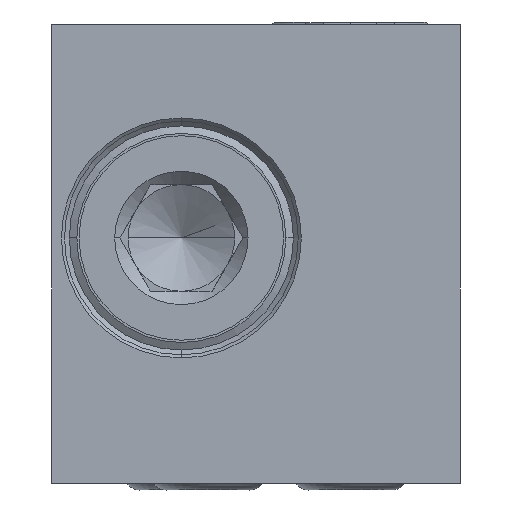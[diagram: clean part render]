
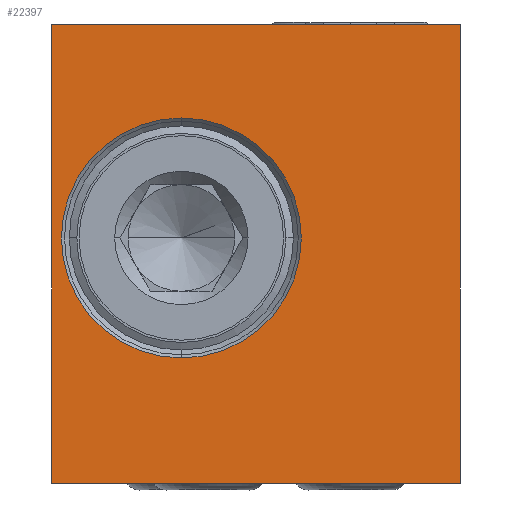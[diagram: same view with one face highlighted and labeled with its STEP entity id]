
A CAD part, left-side view. The second image highlights one B-rep face of the part: STEP entity #22397.
In plain terms, the highlighted planar face has unit normal (-1, 0, 0).
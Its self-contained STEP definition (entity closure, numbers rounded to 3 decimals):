
#4133=DIRECTION('',(0.,0.,1.));
#4134=VECTOR('',#4133,25.8);
#4135=CARTESIAN_POINT('',(-38.,11.5,-12.9));
#4136=LINE('',#4135,#4134);
#4137=DIRECTION('',(0.,-1.,0.));
#4138=VECTOR('',#4137,23.);
#4139=CARTESIAN_POINT('',(-38.,11.5,12.9));
#4140=LINE('',#4139,#4138);
#4141=DIRECTION('',(0.,0.,-1.));
#4142=VECTOR('',#4141,25.8);
#4143=CARTESIAN_POINT('',(-38.,-11.5,12.9));
#4144=LINE('',#4143,#4142);
#4145=DIRECTION('',(0.,1.,0.));
#4146=VECTOR('',#4145,23.);
#4147=CARTESIAN_POINT('',(-38.,-11.5,-12.9));
#4148=LINE('',#4147,#4146);
#4149=CARTESIAN_POINT('',(-38.,4.2,0.9));
#4150=DIRECTION('',(-1.,0.,0.));
#4151=DIRECTION('',(0.,0.,-1.));
#4152=AXIS2_PLACEMENT_3D('',#4149,#4150,#4151);
#4154=CARTESIAN_POINT('',(-38.,4.2,0.9));
#4155=DIRECTION('',(-1.,0.,0.));
#4156=DIRECTION('',(0.,0.,1.));
#4157=AXIS2_PLACEMENT_3D('',#4154,#4155,#4156);
#15307=CARTESIAN_POINT('',(-38.,11.5,12.9));
#15308=VERTEX_POINT('',#15307);
#15309=CARTESIAN_POINT('',(-38.,11.5,-12.9));
#15310=VERTEX_POINT('',#15309);
#15311=CARTESIAN_POINT('',(-38.,-11.5,12.9));
#15312=VERTEX_POINT('',#15311);
#15333=CARTESIAN_POINT('',(-38.,-11.5,-12.9));
#15334=VERTEX_POINT('',#15333);
#15379=CARTESIAN_POINT('',(-38.,4.2,-5.85));
#15380=CARTESIAN_POINT('',(-38.,4.2,7.65));
#15381=VERTEX_POINT('',#15379);
#15382=VERTEX_POINT('',#15380);
#22378=CARTESIAN_POINT('',(-38.,0.,0.));
#22379=DIRECTION('',(-1.,0.,0.));
#22380=DIRECTION('',(0.,-1.,0.));
#22381=AXIS2_PLACEMENT_3D('',#22378,#22379,#22380);
#22382=PLANE('',#22381);
#22383=ORIENTED_EDGE('',*,*,#22371,.T.);
#22384=ORIENTED_EDGE('',*,*,#20067,.T.);
#22386=ORIENTED_EDGE('',*,*,#22385,.T.);
#22388=ORIENTED_EDGE('',*,*,#22387,.T.);
#22389=EDGE_LOOP('',(#22383,#22384,#22386,#22388));
#22390=FACE_OUTER_BOUND('',#22389,.F.);
#22392=ORIENTED_EDGE('',*,*,#22391,.T.);
#22394=ORIENTED_EDGE('',*,*,#22393,.T.);
#22395=EDGE_LOOP('',(#22392,#22394));
#22396=FACE_BOUND('',#22395,.F.);
#22397=ADVANCED_FACE('',(#22390,#22396),#22382,.T.);
#4153=CIRCLE('',#4152,6.75);
#4158=CIRCLE('',#4157,6.75);
#20067=EDGE_CURVE('',#15308,#15312,#4140,.T.);
#22371=EDGE_CURVE('',#15310,#15308,#4136,.T.);
#22385=EDGE_CURVE('',#15312,#15334,#4144,.T.);
#22387=EDGE_CURVE('',#15334,#15310,#4148,.T.);
#22391=EDGE_CURVE('',#15381,#15382,#4153,.T.);
#22393=EDGE_CURVE('',#15382,#15381,#4158,.T.);
